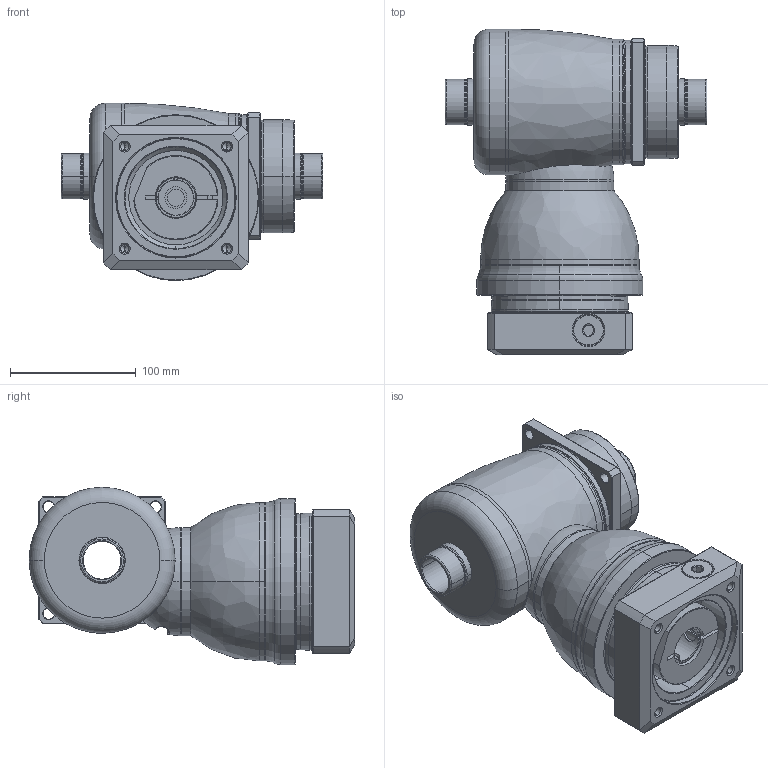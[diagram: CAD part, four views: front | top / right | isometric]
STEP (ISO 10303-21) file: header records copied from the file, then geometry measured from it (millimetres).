
FILE_DESCRIPTION((''),'2;1');
FILE_NAME('KF100_S4_1ST_28-P0409600101_ASM','2016-07-19T',('d01943'),(''),'PRO/ENGINEER BY PARAMETRIC TECHNOLOGY CORPORATION, 2008410','PRO/ENGINEER BY PARAMETRIC TECHNOLOGY CORPORATION, 2008410','');
FILE_SCHEMA(('CONFIG_CONTROL_DESIGN'));
Length unit declared in the file: millimetre
Products named in the file (11): P1008400002; P1804400001; P0914400001; P1315400001; P1007400001; P1318400201; P0409600101; P0503600010; P0912402001; 21711418017; KF100_S4_1ST_28-P0409600101_ASM
Assembly tree (10 placements, depth 2):
  KF100_S4_1ST_28-P0409600101_ASM
    P1008400002
    P1804400001
    P0914400001
    P1315400001
    P1007400001
    P1318400201
    P0409600101
    P0503600010
    P0912402001
    21711418017
Bounding box: 208.3 x 259 x 141 mm (x, y, z)
Volume: 2440272.9 mm3; surface area: 381636.2 mm2
Topology: 11 solids, 11 shells, 517 faces, 1142 edges, 672 vertices
Faces by surface type: cylinder 176, cone 126, plane 103, torus 72, bspline 38, sphere 2
Entity records: 20242 total; most frequent: CARTESIAN_POINT 8638, DIRECTION 2562, ORIENTED_EDGE 2248, EDGE_CURVE 1124, AXIS2_PLACEMENT_3D 1092, VERTEX_POINT 672, CIRCLE 592, EDGE_LOOP 590
